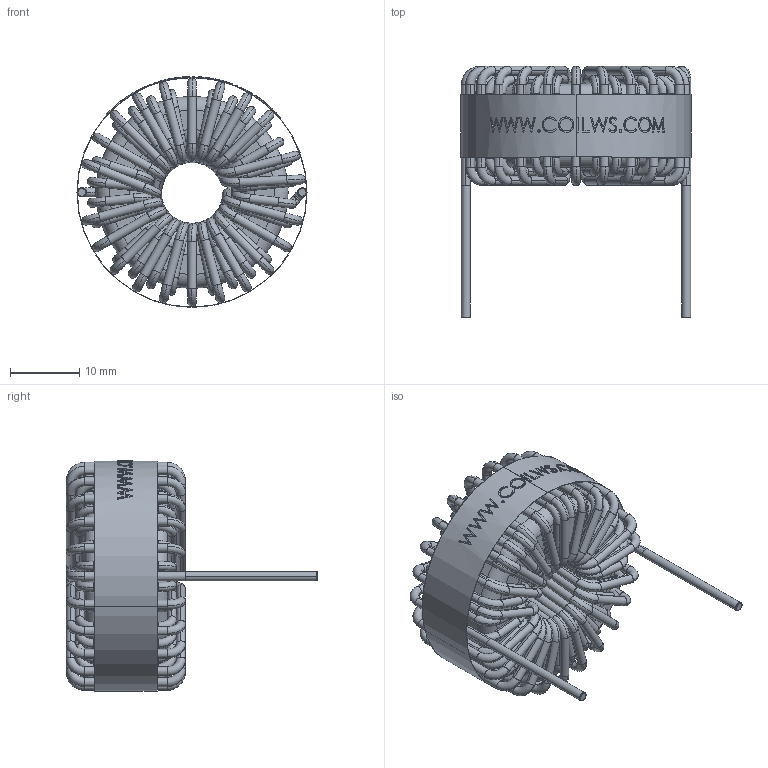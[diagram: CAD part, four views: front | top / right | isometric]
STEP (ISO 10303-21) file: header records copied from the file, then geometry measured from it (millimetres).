
FILE_DESCRIPTION (( 'STEP AP214' ), '1' );
FILE_NAME ('HF270-201M-10AH.STEP', '2022-02-05T07:53:55', ( '' ), ( '' ), 'SwSTEP 2.0', 'SolidWorks 2015', '' );
FILE_SCHEMA (( 'AUTOMOTIVE_DESIGN' ));
Length unit declared in the file: inch
Products named in the file (4): HF270-201M-10AH; WRAPPER; WINDING; CORE
Assembly tree (3 placements, depth 2):
  HF270-201M-10AH
    CORE
    WINDING
    WRAPPER
Bounding box: 33.14 x 36.2 x 33.24 mm (x, y, z)
Volume: 8252.7 mm3; surface area: 13671.6 mm2
Topology: 6 solids, 6 shells, 1034 faces, 3032 edges, 2018 vertices
Faces by surface type: cylinder 452, torus 432, bspline 103, plane 47
Entity records: 45439 total; most frequent: CARTESIAN_POINT 14523, DIRECTION 6770, ORIENTED_EDGE 6064, AXIS2_PLACEMENT_3D 3153, EDGE_CURVE 3032, CIRCLE 2216, VERTEX_POINT 2018, EDGE_LOOP 1064
